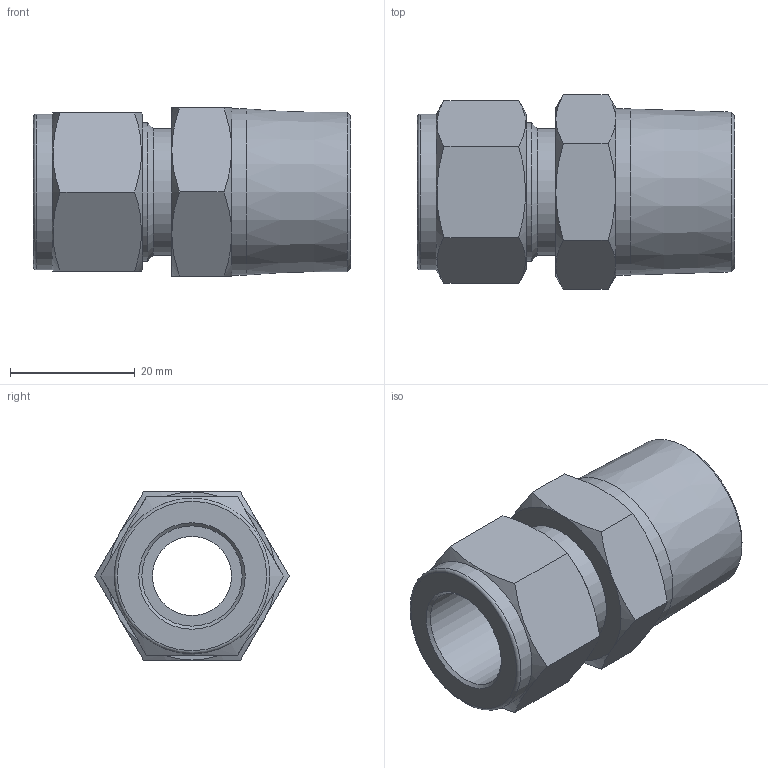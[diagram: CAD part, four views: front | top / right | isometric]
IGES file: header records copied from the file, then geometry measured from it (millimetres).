
Global section: file name: No Iges File Name specified; native system: Autodesk Inventor 2012; preprocessor: AutoDesk Inventor Iges Exporter R2012; author: 硅己绕,,1; organization: 1; date: 20150603.093221; units: millimetre
Bounding box: 50.93 x 31.18 x 27 mm (x, y, z)
Volume: 19087.1 mm3; surface area: 7790.2 mm2
Topology: 1 solids, 1 shells, 44 faces, 92 edges, 54 vertices
Faces by surface type: plane 18, cone 17, revolution 4, cylinder 4, torus 1
Full cylindrical faces by diameter (mm): 20.4 x1, 22.22 x1, 25 x1, 26.67 x1
